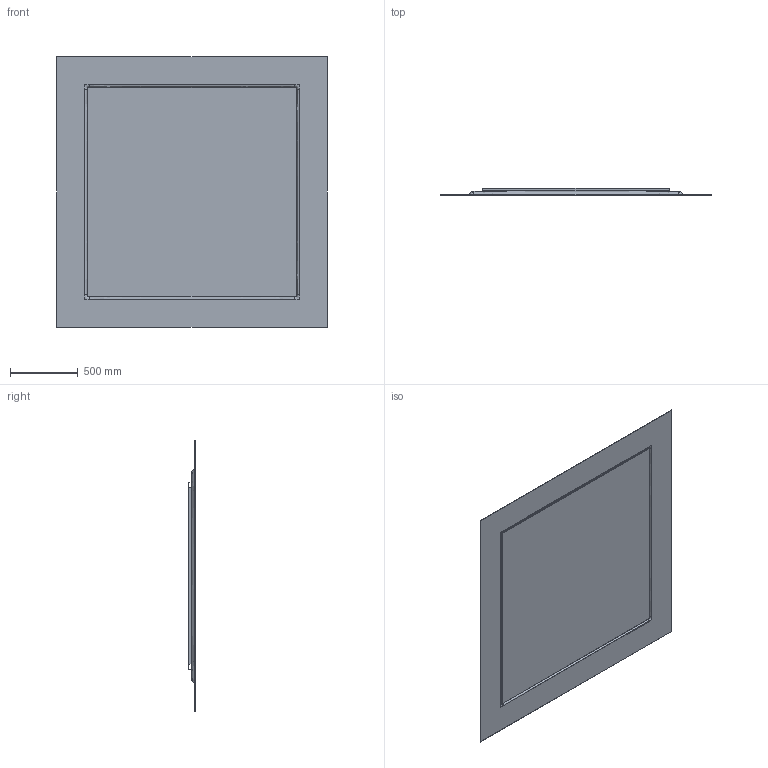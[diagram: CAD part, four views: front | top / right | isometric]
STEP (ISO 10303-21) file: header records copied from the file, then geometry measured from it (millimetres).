
FILE_DESCRIPTION(/* description */ (''),/* implementation_level */ '2;1');
FILE_NAME(/* name */ 'VENUS-~1',/* time_stamp */ '2022-10-17T12:41:16+02:00',/* author */ (''),/* organization */ (''),/* preprocessor_version */ 'ST-DEVELOPER v16.5',/* originating_system */ '',/* authorisation */ '');
FILE_SCHEMA (('AUTOMOTIVE_DESIGN'));
Length unit declared in the file: millimetre
Products named in the file (1): Document
Bounding box: 2000 x 50.13 x 2000 mm (x, y, z)
Volume: 38025625.9 mm3; surface area: 14717049.3 mm2
Topology: 9 solids, 9 shells, 149 faces, 373 edges, 228 vertices
Faces by surface type: plane 108, bspline 41
Entity records: 91379 total; most frequent: CARTESIAN_POINT 88766, ORIENTED_EDGE 714, EDGE_CURVE 357, B_SPLINE_CURVE_WITH_KNOTS 321, VERTEX_POINT 228, EDGE_LOOP 183, ADVANCED_FACE 149, FACE_OUTER_BOUND 149
